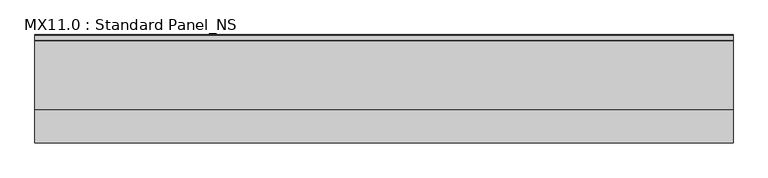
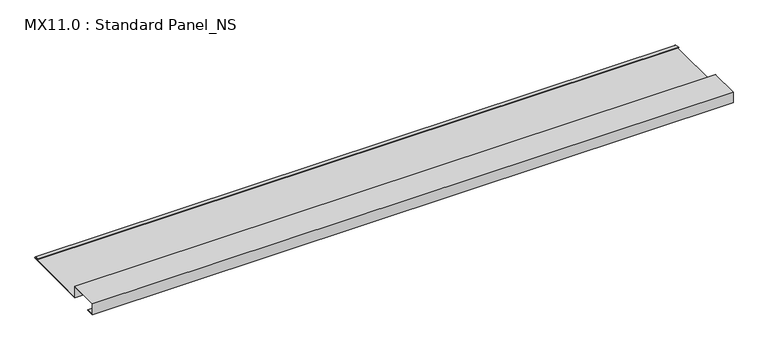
"""IFC4 building model written with IfcOpenShell, lengths in millimetres: proxy geometry, MX11.0 : Standard Panel_NS."""

from ifc_helpers import new_model, si_unit, point, frame, frame_2d, origin, place, context, project, spatial, polyline, circle_curve, trimmed, segment, composite_curve, outline, extrude, source, transform, mapped, element, save


def mx11_0_standard_panel_ns_7b6c7506(model_context):
    return source(origin(), model_context, "Body", "SweptSolid", [
        extrude(outline(composite_curve([segment(polyline([(0.0, 0.0), (0.0, 38.0), (100.0, 38.0), (100.0, 0.0), (324.8317866, 0.0)]), True, "CONTINUOUS"), segment(trimmed(circle_curve(frame_2d((324.3094696, 0.9153551)), 1.0538928), [point((324.8317866, 0.0))], [point((324.8448691, 1.8231201))], True, "CARTESIAN"), True, "CONTINUOUS"), segment(polyline([(324.8448691, 1.8231201), (308.5989911, 4.94103), (308.7874714, 5.923107), (325.1748462, 2.778041)]), True, "CONTINUOUS"), segment(trimmed(circle_curve(frame_2d((324.3094696, 0.9153551)), 2.0538928), [point((325.1748462, 2.778041))], [point((325.0510156, -1.0))], False, "CARTESIAN"), True, "CONTINUOUS"), segment(polyline([(325.0510156, -1.0), (99.0, -1.0), (99.0, 37.0), (1.0, 37.0), (1.0, 1.0), (25.0, 1.0), (25.0, 0.0), (0.0, 0.0)]), True, "CONTINUOUS")], self_intersect=False)), frame((0.0, 0.0, 0.0), z_axis=(1.0, 0.0, 0.0), x_axis=(0.0, 1.0, 0.0)), (0.0, 0.0, 1.0), 2100.0),
    ])


if __name__ == "__main__":
    model = new_model("IFC4")
    model_context = context("Model", 3, world=origin())
    ifc_project = project(units=[si_unit("LENGTHUNIT", "METRE", prefix="MILLI")], contexts=[model_context])
    site = spatial("IfcSite", under=ifc_project)
    building = spatial("IfcBuilding", under=site)
    placement = place(None, origin())
    mx11_0_standard_panel_ns_shape = mx11_0_standard_panel_ns_7b6c7506(model_context)
    element("IfcBuildingElementProxy", 1, Name="MX11.0 : Standard Panel_NS", ObjectType="MX11.0 : Standard Panel_NS", at=placement, inside=building, context=model_context, shape_type="MappedRepresentation", body=[
        mapped(mx11_0_standard_panel_ns_shape, transform((0.0, 0.0, 0.0), x_axis=(1.0, 0.0, 0.0), y_axis=(0.0, 1.0, 0.0), z_axis=(0.0, 0.0, 1.0))),
    ])
    save(model, "model.ifc")
